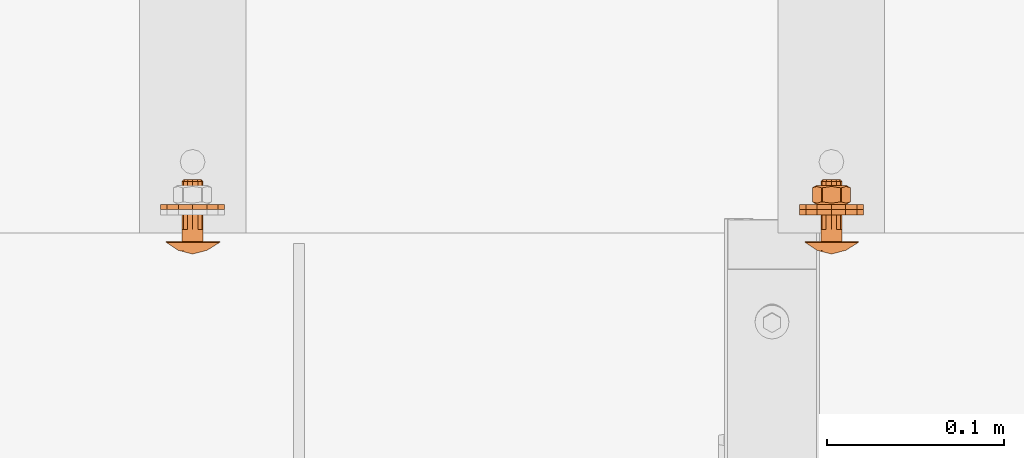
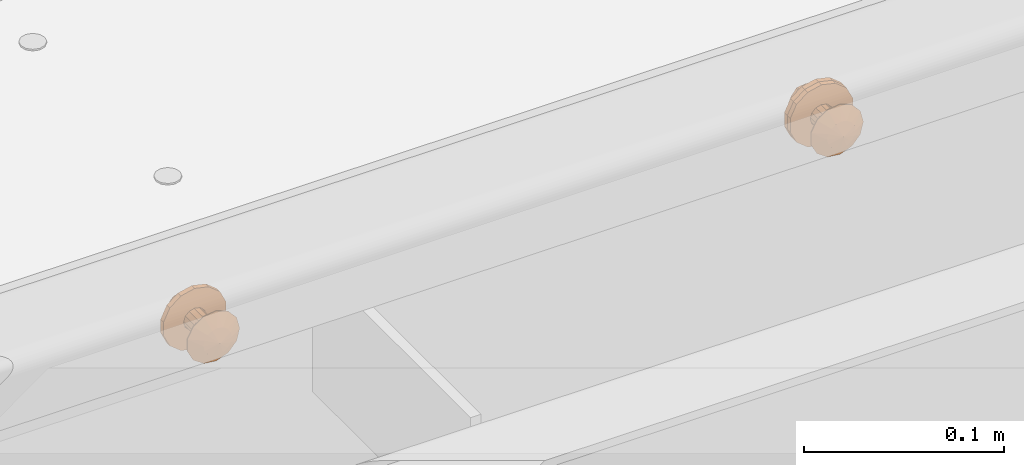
# One storey, part 113 of 116: 6 proxies.
"""IFC2X3 building model written with IfcOpenShell, lengths in millimetres."""

from ifc_helpers import new_model, entity, si_unit, converted_unit, origin_with_axes, place, context, project, spatial, faceted_brep, material, element, save


model = new_model("IFC2X3")

# Units and contexts
model_context = context("Model", 3, precision=1e-09, world=origin_with_axes())
ifc_project = project(units=[si_unit("LENGTHUNIT", "METRE", prefix="MILLI"), si_unit("AREAUNIT", "SQUARE_METRE"), si_unit("VOLUMEUNIT", "CUBIC_METRE"), converted_unit("PLANEANGLEUNIT", "DEGREE", entity("IfcPlaneAngleMeasure", 0.01745329), si_unit("PLANEANGLEUNIT", "RADIAN"), dimensions=[0, 0, 0, 0, 0, 0, 0])], contexts=[model_context])

# Site, building, storey
site_placement = place(None, origin_with_axes())
site = spatial("IfcSite", under=ifc_project, at=site_placement, Name="Site", CompositionType="ELEMENT")
building_placement = place(site_placement, origin_with_axes())
building = spatial("IfcBuilding", under=site, at=building_placement, Name="Struktur 1", CompositionType="ELEMENT")
storey_placement = place(building_placement, origin_with_axes())
storey = spatial("IfcBuildingStorey", under=building, at=storey_placement, Name="Default Storey", CompositionType="ELEMENT", Elevation=0.0)

# Proxies
ifc_material = material(Name="Kein")
proxy_1_placement = place(None, origin_with_axes())
element("IfcBuildingElementProxy", 1, at=proxy_1_placement, inside=storey, material=ifc_material, ObjectType="-", context=model_context, shape_type="Brep", body=[
    faceted_brep([(57286.380761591, 12052.358883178, -72.5), (57287.246786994, 12051.358883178, -72.0), (57288.050634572, 12051.358883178, -75.0), (57287.050634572, 12052.358883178, -75.0), (57284.550634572, 12052.358883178, -70.669872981), (57285.050634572, 12051.358883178, -69.803847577), (57277.720507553, 12052.358883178, -72.5), (57279.550634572, 12052.358883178, -70.669872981), (57282.050634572, 12052.358883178, -70.0), (57286.380761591, 12052.358883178, -77.5), (57284.550634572, 12052.358883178, -79.330127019), (57282.050634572, 12052.358883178, -80.0), (57279.550634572, 12052.358883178, -79.330127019), (57277.720507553, 12052.358883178, -77.5), (57277.050634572, 12052.358883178, -75.0), (57295.620248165, 12017.011383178, -67.878117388), (57290.756226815, 12017.011383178, -62.387772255), (57287.83032902, 12012.523540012, -69.220305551), (57289.602169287, 12012.523540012, -71.872051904), (57282.050634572, 12051.358883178, -69.0), (57285.050634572, 12024.308883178, -69.803847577), (57287.246786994, 12024.308883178, -72.0), (57297.375634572, 12017.011383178, -75.0), (57295.620248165, 12017.358883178, -67.878117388), (57290.756226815, 12017.358883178, -62.387772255), (57287.246786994, 12051.358883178, -78.0), (57285.050634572, 12051.358883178, -80.196152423), (57288.050634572, 12024.308883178, -75.0), (57290.224356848, 12012.523540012, -75.0), (57285.178582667, 12012.523540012, -67.448465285), (57282.050634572, 12010.408883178, -75.0), (57283.897859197, 12017.011383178, -59.786736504), (57279.050634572, 12051.358883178, -69.803847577), (57282.050634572, 12024.308883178, -69.0), (57283.897859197, 12017.358883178, -59.786736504), (57276.854482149, 12051.358883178, -72.0), (57276.050634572, 12051.358883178, -75.0), (57297.375634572, 12017.358883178, -75.0), (57276.854482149, 12051.358883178, -78.0), (57279.050634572, 12051.358883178, -80.196152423), (57282.050634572, 12051.358883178, -81.0), (57288.050634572, 12024.308883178, -69.0), (57289.602169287, 12012.523540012, -78.127948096), (57282.050634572, 12012.523540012, -66.826277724), (57276.616314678, 12017.011383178, -60.670876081), (57279.050634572, 12024.308883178, -69.803847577), (57270.579707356, 12017.358883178, -64.837645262), (57276.616314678, 12017.358883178, -60.670876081), (57295.620248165, 12017.358883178, -82.121882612), (57290.756226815, 12017.358883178, -87.612227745), (57283.897859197, 12017.358883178, -90.213263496), (57276.616314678, 12017.358883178, -89.329123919), (57270.579707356, 12017.358883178, -85.162354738), (57267.17095122, 12017.358883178, -78.667512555), (57267.17095122, 12017.358883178, -71.332487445), (57276.050634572, 12017.358883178, -69.0), (57276.050634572, 12017.358883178, -81.0), (57288.050634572, 12017.358883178, -81.0), (57288.050634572, 12017.358883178, -69.0), (57295.620248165, 12017.011383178, -82.121882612), (57287.246786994, 12024.308883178, -78.0), (57285.050634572, 12024.308883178, -80.196152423), (57287.83032902, 12012.523540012, -80.779694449), (57278.922686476, 12012.523540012, -67.448465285), (57276.854482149, 12024.308883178, -72.0), (57276.050634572, 12024.308883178, -69.0), (57276.050634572, 12024.308883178, -75.0), (57276.854482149, 12024.308883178, -78.0), (57279.050634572, 12024.308883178, -80.196152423), (57282.050634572, 12024.308883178, -81.0), (57288.050634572, 12024.308883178, -81.0), (57290.756226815, 12017.011383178, -87.612227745), (57276.270940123, 12012.523540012, -69.220305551), (57270.579707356, 12017.011383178, -64.837645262), (57276.050634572, 12024.308883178, -81.0), (57285.178582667, 12012.523540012, -82.551534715), (57274.499099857, 12012.523540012, -71.872051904), (57283.897859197, 12017.011383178, -90.213263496), (57282.050634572, 12012.523540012, -83.173722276), (57267.17095122, 12017.011383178, -71.332487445), (57278.922686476, 12012.523540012, -82.551534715), (57273.876912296, 12012.523540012, -75.0), (57276.616314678, 12017.011383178, -89.329123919), (57276.270940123, 12012.523540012, -80.779694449), (57267.17095122, 12017.011383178, -78.667512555), (57274.499099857, 12012.523540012, -78.127948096), (57270.579707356, 12017.011383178, -85.162354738)], [[[0, 1, 2, 3]], [[1, 0, 4, 5]], [[6, 7, 8, 4, 0, 3, 9, 10, 11, 12, 13, 14]], [[15, 16, 17]], [[15, 17, 18]], [[8, 19, 5, 4]], [[5, 20, 21, 1]], [[18, 22, 15]], [[16, 15, 23, 24]], [[9, 25, 26, 10]], [[3, 2, 25, 9]], [[1, 21, 27, 2]], [[18, 28, 22]], [[16, 29, 17]], [[30, 18, 17]], [[16, 31, 29]], [[7, 32, 19, 8]], [[20, 5, 19, 33]], [[24, 34, 31, 16]], [[6, 35, 32, 7]], [[14, 36, 35, 6]], [[15, 22, 37, 23]], [[13, 38, 36, 14]], [[12, 39, 38, 13]], [[11, 40, 39, 12]], [[10, 26, 40, 11]], [[33, 41, 27, 21, 20]], [[28, 42, 22]], [[30, 28, 18]], [[31, 43, 29]], [[30, 17, 29]], [[31, 44, 43]], [[32, 45, 33, 19]], [[46, 47, 34, 24, 23, 37, 48, 49, 50, 51, 52, 53, 54], [55, 56, 57, 58]], [[59, 22, 42]], [[25, 60, 61, 26]], [[2, 27, 60, 25]], [[59, 42, 62]], [[28, 30, 42]], [[30, 29, 43]], [[44, 63, 43]], [[44, 31, 34, 47]], [[45, 32, 35, 64]], [[41, 33, 65, 55, 58]], [[36, 66, 64, 35]], [[38, 67, 66, 36]], [[22, 59, 48, 37]], [[67, 38, 39, 68]], [[40, 69, 68, 39]], [[26, 61, 69, 40]], [[58, 57, 70, 27, 41]], [[71, 59, 62]], [[30, 62, 42]], [[30, 43, 63]], [[44, 72, 63]], [[73, 72, 44]], [[47, 46, 73, 44]], [[66, 65, 33, 45, 64]], [[69, 74, 66, 67, 68]], [[27, 70, 69, 61, 60]], [[59, 71, 49, 48]], [[71, 62, 75]], [[30, 75, 62]], [[72, 30, 63]], [[73, 76, 72]], [[77, 71, 75]], [[30, 78, 75]], [[46, 54, 79, 73]], [[76, 30, 72]], [[79, 76, 73]], [[65, 66, 74, 56, 55]], [[74, 69, 70, 57, 56]], [[71, 77, 50, 49]], [[77, 75, 78]], [[30, 80, 78]], [[81, 30, 76]], [[79, 81, 76]], [[82, 77, 78]], [[80, 30, 83]], [[82, 78, 80]], [[54, 53, 84, 79]], [[85, 30, 81]], [[84, 81, 79]], [[83, 30, 85]], [[77, 82, 51, 50]], [[82, 80, 83]], [[84, 85, 81]], [[86, 83, 85]], [[82, 83, 86]], [[53, 52, 86, 84]], [[86, 85, 84]], [[82, 86, 52, 51]]]),
])
proxy_2_placement = place(None, origin_with_axes())
element("IfcBuildingElementProxy", 2, at=proxy_2_placement, inside=storey, material=ifc_material, ObjectType="-", context=model_context, shape_type="Brep", body=[
    faceted_brep([(57296.514516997, 12035.358883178, -63.465438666), (57296.514516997, 12038.358883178, -63.465438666), (57290.077483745, 12038.358883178, -58.332075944), (57290.077483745, 12035.358883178, -58.332075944), (57300.086800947, 12035.358883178, -79.116637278), (57300.086800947, 12035.358883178, -70.883362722), (57282.050634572, 12035.358883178, -56.5), (57274.023785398, 12035.358883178, -58.332075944), (57267.586752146, 12035.358883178, -63.465438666), (57264.014468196, 12035.358883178, -70.883362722), (57264.014468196, 12035.358883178, -79.116637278), (57267.586752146, 12035.358883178, -86.534561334), (57274.023785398, 12035.358883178, -91.667924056), (57282.050634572, 12035.358883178, -93.5), (57290.077483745, 12035.358883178, -91.667924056), (57296.514516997, 12035.358883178, -86.534561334), (57287.679799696, 12035.358883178, -71.75), (57288.550634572, 12035.358883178, -75.0), (57287.679799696, 12035.358883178, -78.25), (57285.300634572, 12035.358883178, -80.629165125), (57282.050634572, 12035.358883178, -81.5), (57278.800634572, 12035.358883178, -80.629165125), (57276.421469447, 12035.358883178, -78.25), (57275.550634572, 12035.358883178, -75.0), (57276.421469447, 12035.358883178, -71.75), (57278.800634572, 12035.358883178, -69.370834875), (57282.050634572, 12035.358883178, -68.5), (57285.300634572, 12035.358883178, -69.370834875), (57274.023785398, 12038.358883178, -58.332075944), (57282.050634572, 12038.358883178, -56.5), (57300.086800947, 12038.358883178, -70.883362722), (57300.086800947, 12038.358883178, -79.116637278), (57296.514516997, 12038.358883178, -86.534561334), (57290.077483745, 12038.358883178, -91.667924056), (57282.050634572, 12038.358883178, -93.5), (57274.023785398, 12038.358883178, -91.667924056), (57267.586752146, 12038.358883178, -86.534561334), (57264.014468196, 12038.358883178, -79.116637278), (57264.014468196, 12038.358883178, -70.883362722), (57267.586752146, 12038.358883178, -63.465438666), (57282.050634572, 12038.358883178, -68.5), (57278.800634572, 12038.358883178, -69.370834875), (57276.421469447, 12038.358883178, -71.75), (57275.550634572, 12038.358883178, -75.0), (57276.421469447, 12038.358883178, -78.25), (57278.800634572, 12038.358883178, -80.629165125), (57282.050634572, 12038.358883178, -81.5), (57285.300634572, 12038.358883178, -80.629165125), (57287.679799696, 12038.358883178, -78.25), (57288.550634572, 12038.358883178, -75.0), (57287.679799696, 12038.358883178, -71.75), (57285.300634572, 12038.358883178, -69.370834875)], [[[0, 1, 2, 3]], [[4, 5, 0, 3, 6, 7, 8, 9, 10, 11, 12, 13, 14, 15], [16, 17, 18, 19, 20, 21, 22, 23, 24, 25, 26, 27]], [[28, 29, 2, 1, 30, 31, 32, 33, 34, 35, 36, 37, 38, 39], [40, 41, 42, 43, 44, 45, 46, 47, 48, 49, 50, 51]], [[1, 0, 5, 30]], [[27, 51, 50, 16]], [[51, 27, 26, 40]], [[3, 2, 29, 6]], [[30, 5, 4, 31]], [[16, 50, 49, 17]], [[40, 26, 25, 41]], [[6, 29, 28, 7]], [[31, 4, 15, 32]], [[17, 49, 48, 18]], [[41, 25, 24, 42]], [[7, 28, 39, 8]], [[32, 15, 14, 33]], [[18, 48, 47, 19]], [[42, 24, 23, 43]], [[8, 39, 38, 9]], [[33, 14, 13, 34]], [[19, 47, 46, 20]], [[22, 44, 43, 23]], [[9, 38, 37, 10]], [[45, 21, 20, 46]], [[44, 22, 21, 45]], [[34, 13, 12, 35]], [[10, 37, 36, 11]], [[35, 12, 11, 36]]]),
])
proxy_3_placement = place(None, origin_with_axes())
element("IfcBuildingElementProxy", 3, at=proxy_3_placement, inside=storey, material=ifc_material, ObjectType="-", context=model_context, shape_type="Brep", body=[
    faceted_brep([(57656.514516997, 12032.358883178, -63.465438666), (57656.514516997, 12035.358883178, -63.465438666), (57650.077483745, 12035.358883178, -58.332075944), (57650.077483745, 12032.358883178, -58.332075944), (57660.086800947, 12032.358883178, -79.116637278), (57660.086800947, 12032.358883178, -70.883362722), (57642.050634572, 12032.358883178, -56.5), (57634.023785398, 12032.358883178, -58.332075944), (57627.586752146, 12032.358883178, -63.465438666), (57624.014468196, 12032.358883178, -70.883362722), (57624.014468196, 12032.358883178, -79.116637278), (57627.586752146, 12032.358883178, -86.534561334), (57634.023785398, 12032.358883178, -91.667924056), (57642.050634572, 12032.358883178, -93.5), (57650.077483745, 12032.358883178, -91.667924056), (57656.514516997, 12032.358883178, -86.534561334), (57647.679799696, 12032.358883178, -71.75), (57648.550634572, 12032.358883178, -75.0), (57647.679799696, 12032.358883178, -78.25), (57645.300634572, 12032.358883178, -80.629165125), (57642.050634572, 12032.358883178, -81.5), (57638.800634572, 12032.358883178, -80.629165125), (57636.421469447, 12032.358883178, -78.25), (57635.550634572, 12032.358883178, -75.0), (57636.421469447, 12032.358883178, -71.75), (57638.800634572, 12032.358883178, -69.370834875), (57642.050634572, 12032.358883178, -68.5), (57645.300634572, 12032.358883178, -69.370834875), (57634.023785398, 12035.358883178, -58.332075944), (57642.050634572, 12035.358883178, -56.5), (57660.086800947, 12035.358883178, -70.883362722), (57660.086800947, 12035.358883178, -79.116637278), (57656.514516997, 12035.358883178, -86.534561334), (57650.077483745, 12035.358883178, -91.667924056), (57642.050634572, 12035.358883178, -93.5), (57634.023785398, 12035.358883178, -91.667924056), (57627.586752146, 12035.358883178, -86.534561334), (57624.014468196, 12035.358883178, -79.116637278), (57624.014468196, 12035.358883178, -70.883362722), (57627.586752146, 12035.358883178, -63.465438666), (57642.050634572, 12035.358883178, -68.5), (57638.800634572, 12035.358883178, -69.370834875), (57636.421469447, 12035.358883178, -71.75), (57635.550634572, 12035.358883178, -75.0), (57636.421469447, 12035.358883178, -78.25), (57638.800634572, 12035.358883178, -80.629165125), (57642.050634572, 12035.358883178, -81.5), (57645.300634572, 12035.358883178, -80.629165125), (57647.679799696, 12035.358883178, -78.25), (57648.550634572, 12035.358883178, -75.0), (57647.679799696, 12035.358883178, -71.75), (57645.300634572, 12035.358883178, -69.370834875)], [[[0, 1, 2, 3]], [[4, 5, 0, 3, 6, 7, 8, 9, 10, 11, 12, 13, 14, 15], [16, 17, 18, 19, 20, 21, 22, 23, 24, 25, 26, 27]], [[28, 29, 2, 1, 30, 31, 32, 33, 34, 35, 36, 37, 38, 39], [40, 41, 42, 43, 44, 45, 46, 47, 48, 49, 50, 51]], [[1, 0, 5, 30]], [[27, 51, 50, 16]], [[51, 27, 26, 40]], [[3, 2, 29, 6]], [[30, 5, 4, 31]], [[16, 50, 49, 17]], [[40, 26, 25, 41]], [[6, 29, 28, 7]], [[31, 4, 15, 32]], [[17, 49, 48, 18]], [[41, 25, 24, 42]], [[7, 28, 39, 8]], [[32, 15, 14, 33]], [[18, 48, 47, 19]], [[42, 24, 23, 43]], [[8, 39, 38, 9]], [[33, 14, 13, 34]], [[19, 47, 46, 20]], [[22, 44, 43, 23]], [[9, 38, 37, 10]], [[45, 21, 20, 46]], [[44, 22, 21, 45]], [[34, 13, 12, 35]], [[10, 37, 36, 11]], [[35, 12, 11, 36]]]),
])
proxy_4_placement = place(None, origin_with_axes())
element("IfcBuildingElementProxy", 4, at=proxy_4_placement, inside=storey, material=ifc_material, ObjectType="-", context=model_context, shape_type="Brep", body=[
    faceted_brep([(57647.538668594, 12039.773542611, -65.756103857), (57647.538668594, 12047.744223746, -65.756103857), (57647.31206645, 12047.744223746, -65.625275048), (57647.31206645, 12039.773542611, -65.625275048), (57647.762019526, 12039.773542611, -65.892408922), (57646.200634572, 12038.358883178, -67.811989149), (57646.200634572, 12049.158883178, -67.811989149), (57647.762019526, 12047.744223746, -65.892408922), (57647.082347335, 12047.744223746, -65.5), (57647.082347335, 12039.773542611, -65.5), (57652.793732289, 12047.744223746, -74.607591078), (57652.793732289, 12039.773542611, -74.607591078), (57652.800100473, 12039.773542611, -74.869171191), (57652.800100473, 12047.744223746, -74.869171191), (57650.277875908, 12039.051703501, -70.25), (57650.277875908, 12048.466062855, -70.25), (57652.800100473, 12039.773542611, -75.130828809), (57652.800100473, 12047.744223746, -75.130828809), (57650.350634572, 12049.158883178, -75.0), (57642.050634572, 12048.466062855, -65.5), (57637.018921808, 12047.744223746, -65.5), (57637.018921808, 12039.773542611, -65.5), (57642.050634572, 12039.051703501, -65.5), (57652.793732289, 12039.773542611, -75.392408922), (57652.793732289, 12047.744223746, -75.392408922), (57650.350634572, 12038.358883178, -75.0), (57649.238645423, 12038.358883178, -70.85), (57642.050634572, 12038.358883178, -66.7), (57637.900634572, 12038.358883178, -67.811989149), (57634.86262372, 12038.358883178, -70.85), (57633.750634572, 12038.358883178, -75.0), (57634.86262372, 12038.358883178, -79.15), (57637.900634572, 12038.358883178, -82.188010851), (57642.050634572, 12038.358883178, -83.3), (57646.200634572, 12038.358883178, -82.188010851), (57649.238645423, 12038.358883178, -79.15), (57639.050634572, 12038.358883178, -69.803847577), (57642.050634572, 12038.358883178, -69.0), (57645.050634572, 12038.358883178, -69.803847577), (57647.246786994, 12038.358883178, -72.0), (57648.050634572, 12038.358883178, -75.0), (57647.246786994, 12038.358883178, -78.0), (57645.050634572, 12038.358883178, -80.196152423), (57642.050634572, 12038.358883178, -81.0), (57639.050634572, 12038.358883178, -80.196152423), (57636.854482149, 12038.358883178, -78.0), (57636.050634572, 12038.358883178, -75.0), (57636.854482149, 12038.358883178, -72.0), (57645.050634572, 12049.158883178, -69.803847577), (57647.246786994, 12049.158883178, -72.0), (57649.238645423, 12049.158883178, -70.85), (57649.238645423, 12049.158883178, -79.15), (57646.200634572, 12049.158883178, -82.188010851), (57642.050634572, 12049.158883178, -83.3), (57637.900634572, 12049.158883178, -82.188010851), (57634.86262372, 12049.158883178, -79.15), (57633.750634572, 12049.158883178, -75.0), (57634.86262372, 12049.158883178, -70.85), (57637.900634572, 12049.158883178, -67.811989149), (57642.050634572, 12049.158883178, -66.7), (57648.050634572, 12049.158883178, -75.0), (57642.050634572, 12049.158883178, -69.0), (57639.050634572, 12049.158883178, -69.803847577), (57636.854482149, 12049.158883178, -72.0), (57636.050634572, 12049.158883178, -75.0), (57636.854482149, 12049.158883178, -78.0), (57639.050634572, 12049.158883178, -80.196152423), (57642.050634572, 12049.158883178, -81.0), (57645.050634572, 12049.158883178, -80.196152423), (57647.246786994, 12049.158883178, -78.0), (57636.789202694, 12047.744223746, -65.625275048), (57636.789202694, 12039.773542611, -65.625275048), (57650.277875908, 12039.051703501, -79.75), (57647.762019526, 12039.773542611, -84.107591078), (57647.762019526, 12047.744223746, -84.107591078), (57650.277875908, 12048.466062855, -79.75), (57636.562600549, 12047.744223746, -65.756103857), (57636.562600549, 12039.773542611, -65.756103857), (57636.339249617, 12047.744223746, -65.892408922), (57636.339249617, 12039.773542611, -65.892408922), (57633.823393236, 12048.466062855, -70.25), (57631.307536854, 12047.744223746, -74.607591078), (57631.307536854, 12039.773542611, -74.607591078), (57633.823393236, 12039.051703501, -70.25), (57647.538668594, 12039.773542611, -84.243896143), (57647.538668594, 12047.744223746, -84.243896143), (57631.301168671, 12047.744223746, -74.869171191), (57631.301168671, 12039.773542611, -74.869171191), (57647.31206645, 12039.773542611, -84.374724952), (57647.31206645, 12047.744223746, -84.374724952), (57631.301168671, 12047.744223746, -75.130828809), (57631.301168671, 12039.773542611, -75.130828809), (57647.082347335, 12039.773542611, -84.5), (57647.082347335, 12047.744223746, -84.5), (57631.307536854, 12047.744223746, -75.392408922), (57631.307536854, 12039.773542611, -75.392408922), (57642.050634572, 12039.051703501, -84.5), (57637.018921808, 12039.773542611, -84.5), (57637.018921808, 12047.744223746, -84.5), (57642.050634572, 12048.466062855, -84.5), (57633.823393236, 12048.466062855, -79.75), (57636.339249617, 12047.744223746, -84.107591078), (57636.339249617, 12039.773542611, -84.107591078), (57633.823393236, 12039.051703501, -79.75), (57636.789202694, 12039.773542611, -84.374724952), (57636.789202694, 12047.744223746, -84.374724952), (57636.562600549, 12039.773542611, -84.243896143), (57636.562600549, 12047.744223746, -84.243896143)], [[[0, 1, 2, 3]], [[4, 0, 5]], [[1, 6, 2]], [[1, 0, 4, 7]], [[8, 9, 3, 2]], [[3, 5, 0]], [[8, 2, 6]], [[10, 11, 12, 13]], [[14, 11, 10, 15, 7, 4]], [[14, 4, 5]], [[1, 7, 6]], [[13, 12, 16, 17]], [[10, 13, 18]], [[8, 19, 20, 21, 22, 9]], [[3, 9, 5]], [[19, 8, 6]], [[23, 24, 17, 16]], [[12, 25, 16]], [[14, 5, 26]], [[5, 27, 28, 29, 30, 31, 32, 33, 34, 35, 25, 26], [36, 37, 38, 39, 40, 41, 42, 43, 44, 45, 46, 47]], [[38, 48, 49, 39]], [[7, 50, 6]], [[6, 50, 18, 51, 52, 53, 54, 55, 56, 57, 58, 59], [60, 49, 48, 61, 62, 63, 64, 65, 66, 67, 68, 69]], [[17, 18, 13]], [[7, 15, 50]], [[15, 10, 18]], [[21, 20, 70, 71]], [[9, 27, 5]], [[19, 6, 59]], [[48, 38, 37, 61]], [[72, 73, 74, 75, 24, 23]], [[23, 16, 25]], [[12, 11, 25]], [[11, 14, 26]], [[17, 24, 18]], [[15, 18, 50]], [[21, 71, 28]], [[71, 70, 76, 77]], [[9, 22, 27]], [[22, 21, 28]], [[70, 20, 58]], [[20, 19, 59]], [[70, 58, 76]], [[78, 79, 77, 76]], [[24, 75, 51]], [[72, 23, 25]], [[11, 26, 25]], [[39, 49, 60, 40]], [[24, 51, 18]], [[77, 28, 71]], [[22, 28, 27]], [[61, 37, 36, 62]], [[20, 59, 58]], [[78, 76, 58]], [[78, 80, 81, 82, 83, 79]], [[75, 52, 51]], [[72, 25, 35]], [[77, 79, 28]], [[80, 78, 58]], [[75, 74, 52]], [[74, 73, 84, 85]], [[73, 72, 35]], [[40, 60, 69, 41]], [[79, 83, 29]], [[83, 82, 30]], [[82, 81, 86, 87]], [[79, 29, 28]], [[62, 36, 47, 63]], [[80, 58, 57]], [[74, 85, 52]], [[85, 84, 88, 89]], [[73, 35, 34]], [[84, 73, 34]], [[83, 30, 29]], [[82, 87, 30]], [[87, 86, 90, 91]], [[81, 80, 57]], [[81, 56, 86]], [[89, 52, 85]], [[89, 88, 92, 93]], [[68, 42, 41, 69]], [[84, 34, 88]], [[91, 30, 87]], [[91, 90, 94, 95]], [[63, 47, 46, 64]], [[81, 57, 56]], [[90, 86, 56]], [[89, 93, 52]], [[42, 68, 67, 43]], [[66, 44, 43, 67]], [[92, 88, 34]], [[91, 95, 30]], [[45, 65, 64, 46]], [[94, 90, 56]], [[93, 53, 52]], [[96, 97, 98, 99, 93, 92]], [[44, 66, 65, 45]], [[96, 92, 34]], [[95, 31, 30]], [[94, 100, 101, 102, 103, 95]], [[94, 56, 100]], [[93, 99, 53]], [[96, 34, 33]], [[95, 103, 31]], [[100, 56, 55]], [[99, 54, 53]], [[97, 96, 33]], [[103, 32, 31]], [[101, 100, 55]], [[99, 98, 54]], [[97, 33, 32]], [[102, 32, 103]], [[101, 55, 54]], [[98, 97, 104, 105]], [[98, 105, 54]], [[97, 32, 104]], [[102, 106, 32]], [[102, 101, 107, 106]], [[107, 101, 54]], [[107, 54, 105]], [[106, 104, 32]], [[105, 104, 106, 107]]]),
])
proxy_5_placement = place(None, origin_with_axes())
element("IfcBuildingElementProxy", 5, at=proxy_5_placement, inside=storey, material=ifc_material, ObjectType="-", context=model_context, shape_type="Brep", body=[
    faceted_brep([(57646.380761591, 12052.358883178, -72.5), (57647.246786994, 12051.358883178, -72.0), (57648.050634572, 12051.358883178, -75.0), (57647.050634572, 12052.358883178, -75.0), (57644.550634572, 12052.358883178, -70.669872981), (57645.050634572, 12051.358883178, -69.803847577), (57637.720507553, 12052.358883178, -72.5), (57639.550634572, 12052.358883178, -70.669872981), (57642.050634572, 12052.358883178, -70.0), (57646.380761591, 12052.358883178, -77.5), (57644.550634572, 12052.358883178, -79.330127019), (57642.050634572, 12052.358883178, -80.0), (57639.550634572, 12052.358883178, -79.330127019), (57637.720507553, 12052.358883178, -77.5), (57637.050634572, 12052.358883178, -75.0), (57655.620248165, 12017.011383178, -67.878117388), (57650.756226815, 12017.011383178, -62.387772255), (57647.83032902, 12012.523540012, -69.220305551), (57649.602169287, 12012.523540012, -71.872051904), (57642.050634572, 12051.358883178, -69.0), (57645.050634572, 12024.308883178, -69.803847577), (57647.246786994, 12024.308883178, -72.0), (57657.375634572, 12017.011383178, -75.0), (57655.620248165, 12017.358883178, -67.878117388), (57650.756226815, 12017.358883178, -62.387772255), (57647.246786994, 12051.358883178, -78.0), (57645.050634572, 12051.358883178, -80.196152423), (57648.050634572, 12024.308883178, -75.0), (57650.224356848, 12012.523540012, -75.0), (57645.178582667, 12012.523540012, -67.448465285), (57642.050634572, 12010.408883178, -75.0), (57643.897859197, 12017.011383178, -59.786736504), (57639.050634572, 12051.358883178, -69.803847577), (57642.050634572, 12024.308883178, -69.0), (57643.897859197, 12017.358883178, -59.786736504), (57636.854482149, 12051.358883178, -72.0), (57636.050634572, 12051.358883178, -75.0), (57657.375634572, 12017.358883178, -75.0), (57636.854482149, 12051.358883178, -78.0), (57639.050634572, 12051.358883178, -80.196152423), (57642.050634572, 12051.358883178, -81.0), (57648.050634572, 12024.308883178, -69.0), (57649.602169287, 12012.523540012, -78.127948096), (57642.050634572, 12012.523540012, -66.826277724), (57636.616314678, 12017.011383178, -60.670876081), (57639.050634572, 12024.308883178, -69.803847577), (57630.579707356, 12017.358883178, -64.837645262), (57636.616314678, 12017.358883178, -60.670876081), (57655.620248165, 12017.358883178, -82.121882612), (57650.756226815, 12017.358883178, -87.612227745), (57643.897859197, 12017.358883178, -90.213263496), (57636.616314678, 12017.358883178, -89.329123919), (57630.579707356, 12017.358883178, -85.162354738), (57627.17095122, 12017.358883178, -78.667512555), (57627.17095122, 12017.358883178, -71.332487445), (57636.050634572, 12017.358883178, -69.0), (57636.050634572, 12017.358883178, -81.0), (57648.050634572, 12017.358883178, -81.0), (57648.050634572, 12017.358883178, -69.0), (57655.620248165, 12017.011383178, -82.121882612), (57647.246786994, 12024.308883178, -78.0), (57645.050634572, 12024.308883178, -80.196152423), (57647.83032902, 12012.523540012, -80.779694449), (57638.922686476, 12012.523540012, -67.448465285), (57636.854482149, 12024.308883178, -72.0), (57636.050634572, 12024.308883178, -69.0), (57636.050634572, 12024.308883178, -75.0), (57636.854482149, 12024.308883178, -78.0), (57639.050634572, 12024.308883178, -80.196152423), (57642.050634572, 12024.308883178, -81.0), (57648.050634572, 12024.308883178, -81.0), (57650.756226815, 12017.011383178, -87.612227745), (57636.270940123, 12012.523540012, -69.220305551), (57630.579707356, 12017.011383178, -64.837645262), (57636.050634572, 12024.308883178, -81.0), (57645.178582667, 12012.523540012, -82.551534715), (57634.499099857, 12012.523540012, -71.872051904), (57643.897859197, 12017.011383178, -90.213263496), (57642.050634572, 12012.523540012, -83.173722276), (57627.17095122, 12017.011383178, -71.332487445), (57638.922686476, 12012.523540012, -82.551534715), (57633.876912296, 12012.523540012, -75.0), (57636.616314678, 12017.011383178, -89.329123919), (57636.270940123, 12012.523540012, -80.779694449), (57627.17095122, 12017.011383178, -78.667512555), (57634.499099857, 12012.523540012, -78.127948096), (57630.579707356, 12017.011383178, -85.162354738)], [[[0, 1, 2, 3]], [[1, 0, 4, 5]], [[6, 7, 8, 4, 0, 3, 9, 10, 11, 12, 13, 14]], [[15, 16, 17]], [[15, 17, 18]], [[8, 19, 5, 4]], [[5, 20, 21, 1]], [[18, 22, 15]], [[16, 15, 23, 24]], [[9, 25, 26, 10]], [[3, 2, 25, 9]], [[1, 21, 27, 2]], [[18, 28, 22]], [[16, 29, 17]], [[30, 18, 17]], [[16, 31, 29]], [[7, 32, 19, 8]], [[20, 5, 19, 33]], [[24, 34, 31, 16]], [[6, 35, 32, 7]], [[14, 36, 35, 6]], [[15, 22, 37, 23]], [[13, 38, 36, 14]], [[12, 39, 38, 13]], [[11, 40, 39, 12]], [[10, 26, 40, 11]], [[33, 41, 27, 21, 20]], [[28, 42, 22]], [[30, 28, 18]], [[31, 43, 29]], [[30, 17, 29]], [[31, 44, 43]], [[32, 45, 33, 19]], [[46, 47, 34, 24, 23, 37, 48, 49, 50, 51, 52, 53, 54], [55, 56, 57, 58]], [[59, 22, 42]], [[25, 60, 61, 26]], [[2, 27, 60, 25]], [[59, 42, 62]], [[28, 30, 42]], [[30, 29, 43]], [[44, 63, 43]], [[44, 31, 34, 47]], [[45, 32, 35, 64]], [[41, 33, 65, 55, 58]], [[36, 66, 64, 35]], [[38, 67, 66, 36]], [[22, 59, 48, 37]], [[67, 38, 39, 68]], [[40, 69, 68, 39]], [[26, 61, 69, 40]], [[58, 57, 70, 27, 41]], [[71, 59, 62]], [[30, 62, 42]], [[30, 43, 63]], [[44, 72, 63]], [[73, 72, 44]], [[47, 46, 73, 44]], [[66, 65, 33, 45, 64]], [[69, 74, 66, 67, 68]], [[27, 70, 69, 61, 60]], [[59, 71, 49, 48]], [[71, 62, 75]], [[30, 75, 62]], [[72, 30, 63]], [[73, 76, 72]], [[77, 71, 75]], [[30, 78, 75]], [[46, 54, 79, 73]], [[76, 30, 72]], [[79, 76, 73]], [[65, 66, 74, 56, 55]], [[74, 69, 70, 57, 56]], [[71, 77, 50, 49]], [[77, 75, 78]], [[30, 80, 78]], [[81, 30, 76]], [[79, 81, 76]], [[82, 77, 78]], [[80, 30, 83]], [[82, 78, 80]], [[54, 53, 84, 79]], [[85, 30, 81]], [[84, 81, 79]], [[83, 30, 85]], [[77, 82, 51, 50]], [[82, 80, 83]], [[84, 85, 81]], [[86, 83, 85]], [[82, 83, 86]], [[53, 52, 86, 84]], [[86, 85, 84]], [[82, 86, 52, 51]]]),
])
proxy_6_placement = place(None, origin_with_axes())
element("IfcBuildingElementProxy", 6, at=proxy_6_placement, inside=storey, material=ifc_material, ObjectType="-", context=model_context, shape_type="Brep", body=[
    faceted_brep([(57656.514516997, 12035.358883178, -63.465438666), (57656.514516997, 12038.358883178, -63.465438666), (57650.077483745, 12038.358883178, -58.332075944), (57650.077483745, 12035.358883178, -58.332075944), (57660.086800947, 12035.358883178, -79.116637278), (57660.086800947, 12035.358883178, -70.883362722), (57642.050634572, 12035.358883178, -56.5), (57634.023785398, 12035.358883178, -58.332075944), (57627.586752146, 12035.358883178, -63.465438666), (57624.014468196, 12035.358883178, -70.883362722), (57624.014468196, 12035.358883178, -79.116637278), (57627.586752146, 12035.358883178, -86.534561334), (57634.023785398, 12035.358883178, -91.667924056), (57642.050634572, 12035.358883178, -93.5), (57650.077483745, 12035.358883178, -91.667924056), (57656.514516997, 12035.358883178, -86.534561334), (57647.679799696, 12035.358883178, -71.75), (57648.550634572, 12035.358883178, -75.0), (57647.679799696, 12035.358883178, -78.25), (57645.300634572, 12035.358883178, -80.629165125), (57642.050634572, 12035.358883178, -81.5), (57638.800634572, 12035.358883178, -80.629165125), (57636.421469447, 12035.358883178, -78.25), (57635.550634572, 12035.358883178, -75.0), (57636.421469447, 12035.358883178, -71.75), (57638.800634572, 12035.358883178, -69.370834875), (57642.050634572, 12035.358883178, -68.5), (57645.300634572, 12035.358883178, -69.370834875), (57634.023785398, 12038.358883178, -58.332075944), (57642.050634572, 12038.358883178, -56.5), (57660.086800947, 12038.358883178, -70.883362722), (57660.086800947, 12038.358883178, -79.116637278), (57656.514516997, 12038.358883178, -86.534561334), (57650.077483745, 12038.358883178, -91.667924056), (57642.050634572, 12038.358883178, -93.5), (57634.023785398, 12038.358883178, -91.667924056), (57627.586752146, 12038.358883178, -86.534561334), (57624.014468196, 12038.358883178, -79.116637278), (57624.014468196, 12038.358883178, -70.883362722), (57627.586752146, 12038.358883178, -63.465438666), (57642.050634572, 12038.358883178, -68.5), (57638.800634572, 12038.358883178, -69.370834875), (57636.421469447, 12038.358883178, -71.75), (57635.550634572, 12038.358883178, -75.0), (57636.421469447, 12038.358883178, -78.25), (57638.800634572, 12038.358883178, -80.629165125), (57642.050634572, 12038.358883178, -81.5), (57645.300634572, 12038.358883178, -80.629165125), (57647.679799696, 12038.358883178, -78.25), (57648.550634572, 12038.358883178, -75.0), (57647.679799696, 12038.358883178, -71.75), (57645.300634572, 12038.358883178, -69.370834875)], [[[0, 1, 2, 3]], [[4, 5, 0, 3, 6, 7, 8, 9, 10, 11, 12, 13, 14, 15], [16, 17, 18, 19, 20, 21, 22, 23, 24, 25, 26, 27]], [[28, 29, 2, 1, 30, 31, 32, 33, 34, 35, 36, 37, 38, 39], [40, 41, 42, 43, 44, 45, 46, 47, 48, 49, 50, 51]], [[1, 0, 5, 30]], [[27, 51, 50, 16]], [[51, 27, 26, 40]], [[3, 2, 29, 6]], [[30, 5, 4, 31]], [[16, 50, 49, 17]], [[40, 26, 25, 41]], [[6, 29, 28, 7]], [[31, 4, 15, 32]], [[17, 49, 48, 18]], [[41, 25, 24, 42]], [[7, 28, 39, 8]], [[32, 15, 14, 33]], [[18, 48, 47, 19]], [[42, 24, 23, 43]], [[8, 39, 38, 9]], [[33, 14, 13, 34]], [[19, 47, 46, 20]], [[22, 44, 43, 23]], [[9, 38, 37, 10]], [[45, 21, 20, 46]], [[44, 22, 21, 45]], [[34, 13, 12, 35]], [[10, 37, 36, 11]], [[35, 12, 11, 36]]]),
])

save(model, "model.ifc")
